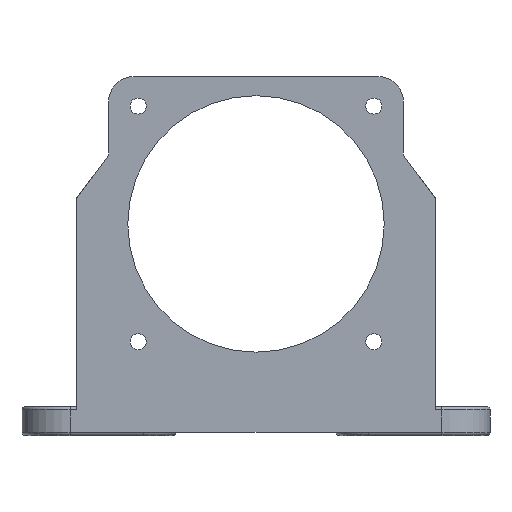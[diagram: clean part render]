
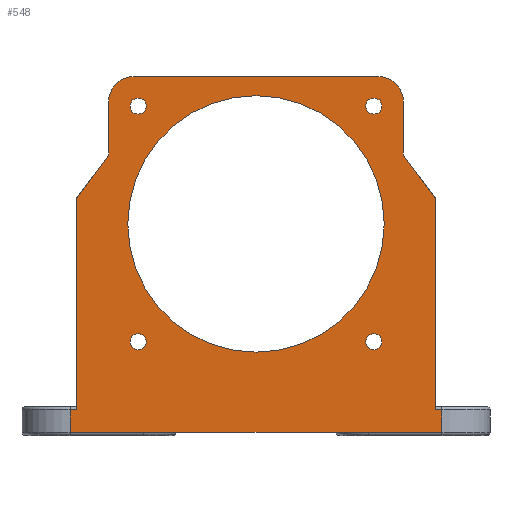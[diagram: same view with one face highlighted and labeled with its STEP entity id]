
A CAD part, front view. The second image highlights one B-rep face of the part: STEP entity #548.
In plain terms, the highlighted planar face has unit normal (0, -1, 0).
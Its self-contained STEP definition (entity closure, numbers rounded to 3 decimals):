
#73=CARTESIAN_POINT('',(38.0,0.,0.0));
#74=VERTEX_POINT('',#73);
#291=CARTESIAN_POINT('',(15.,0.,0.0));
#292=VERTEX_POINT('',#291);
#324=CARTESIAN_POINT('',(38.,0.,0.0));
#325=DIRECTION('',(-1.0,0.0,0.0));
#326=VECTOR('',#325,23.);
#327=LINE('',#324,#326);
#328=EDGE_CURVE('',#74,#292,#327,.T.);
#346=CARTESIAN_POINT('',(15.,0.,7.));
#347=VERTEX_POINT('',#346);
#348=CARTESIAN_POINT('',(15.,0.,0.0));
#349=DIRECTION('',(0.0,0.0,1.0));
#350=VECTOR('',#349,7.);
#351=LINE('',#348,#350);
#352=EDGE_CURVE('',#292,#347,#351,.T.);
#372=CARTESIAN_POINT('',(146.0,0.,0.0));
#373=DIRECTION('',(0.0,-1.0,0.0));
#374=DIRECTION('',(0.0,0.0,-1.0));
#375=AXIS2_PLACEMENT_3D('',#372,#373,#374);
#376=PLANE('',#375);
#377=ORIENTED_EDGE('',*,*,#328,.F.);
#378=CARTESIAN_POINT('',(108.0,0.,0.0));
#379=VERTEX_POINT('',#378);
#380=CARTESIAN_POINT('',(108.0,0.,0.0));
#381=DIRECTION('',(-1.0,0.0,0.0));
#382=VECTOR('',#381,70.0);
#383=LINE('',#380,#382);
#384=EDGE_CURVE('',#379,#74,#383,.T.);
#385=ORIENTED_EDGE('',*,*,#384,.F.);
#386=CARTESIAN_POINT('',(131.0,0.,0.0));
#387=VERTEX_POINT('',#386);
#388=CARTESIAN_POINT('',(131.,0.,0.0));
#389=DIRECTION('',(-1.0,0.0,0.0));
#390=VECTOR('',#389,23.0);
#391=LINE('',#388,#390);
#392=EDGE_CURVE('',#387,#379,#391,.T.);
#393=ORIENTED_EDGE('',*,*,#392,.F.);
#394=CARTESIAN_POINT('',(131.0,0.,7.));
#395=VERTEX_POINT('',#394);
#396=CARTESIAN_POINT('',(131.0,0.,7.));
#397=DIRECTION('',(0.0,0.0,-1.0));
#398=VECTOR('',#397,7.);
#399=LINE('',#396,#398);
#400=EDGE_CURVE('',#395,#387,#399,.T.);
#401=ORIENTED_EDGE('',*,*,#400,.F.);
#402=CARTESIAN_POINT('',(129.,0.,7.));
#403=VERTEX_POINT('',#402);
#404=CARTESIAN_POINT('',(129.,0.,7.));
#405=DIRECTION('',(1.0,0.0,0.0));
#406=VECTOR('',#405,2.0);
#407=LINE('',#404,#406);
#408=EDGE_CURVE('',#403,#395,#407,.T.);
#409=ORIENTED_EDGE('',*,*,#408,.F.);
#410=CARTESIAN_POINT('',(129.0,0.,73.));
#411=VERTEX_POINT('',#410);
#412=CARTESIAN_POINT('',(129.0,0.0,7.0));
#413=DIRECTION('',(0.0,0.0,1.0));
#414=VECTOR('',#413,66.);
#415=LINE('',#412,#414);
#416=EDGE_CURVE('',#403,#411,#415,.T.);
#417=ORIENTED_EDGE('',*,*,#416,.T.);
#418=CARTESIAN_POINT('',(119.,0.,86.5));
#419=VERTEX_POINT('',#418);
#420=CARTESIAN_POINT('',(129.0,0.,73.0));
#421=DIRECTION('',(-0.595,0.,0.804));
#422=VECTOR('',#421,16.8);
#423=LINE('',#420,#422);
#424=EDGE_CURVE('',#411,#419,#423,.T.);
#425=ORIENTED_EDGE('',*,*,#424,.T.);
#426=CARTESIAN_POINT('',(119.0,0.,103.0));
#427=VERTEX_POINT('',#426);
#428=CARTESIAN_POINT('',(119.,0.,86.5));
#429=DIRECTION('',(0.0,0.0,1.0));
#430=VECTOR('',#429,16.5);
#431=LINE('',#428,#430);
#432=EDGE_CURVE('',#419,#427,#431,.T.);
#433=ORIENTED_EDGE('',*,*,#432,.T.);
#434=CARTESIAN_POINT('',(111.0,0.,111.));
#435=VERTEX_POINT('',#434);
#436=CARTESIAN_POINT('',(111.0,0.,103.0));
#437=DIRECTION('',(0.,1.0,0.));
#438=DIRECTION('',(0.707,0.,0.707));
#439=AXIS2_PLACEMENT_3D('',#436,#437,#438);
#440=CIRCLE('',#439,8.);
#441=EDGE_CURVE('',#435,#427,#440,.T.);
#442=ORIENTED_EDGE('',*,*,#441,.F.);
#443=CARTESIAN_POINT('',(35.,0.,111.));
#444=VERTEX_POINT('',#443);
#445=CARTESIAN_POINT('',(111.0,0.,111.));
#446=DIRECTION('',(-1.0,0.0,0.0));
#447=VECTOR('',#446,76.0);
#448=LINE('',#445,#447);
#449=EDGE_CURVE('',#435,#444,#448,.T.);
#450=ORIENTED_EDGE('',*,*,#449,.T.);
#451=CARTESIAN_POINT('',(27.,0.,103.0));
#452=VERTEX_POINT('',#451);
#453=CARTESIAN_POINT('',(35.,0.,103.0));
#454=DIRECTION('',(0.,1.0,0.));
#455=DIRECTION('',(-0.707,0.,0.707));
#456=AXIS2_PLACEMENT_3D('',#453,#454,#455);
#457=CIRCLE('',#456,8.);
#458=EDGE_CURVE('',#452,#444,#457,.T.);
#459=ORIENTED_EDGE('',*,*,#458,.F.);
#460=CARTESIAN_POINT('',(27.,0.,86.5));
#461=VERTEX_POINT('',#460);
#462=CARTESIAN_POINT('',(27.,0.,103.0));
#463=DIRECTION('',(0.0,0.0,-1.0));
#464=VECTOR('',#463,16.5);
#465=LINE('',#462,#464);
#466=EDGE_CURVE('',#452,#461,#465,.T.);
#467=ORIENTED_EDGE('',*,*,#466,.T.);
#468=CARTESIAN_POINT('',(17.,0.,73.0));
#469=VERTEX_POINT('',#468);
#470=CARTESIAN_POINT('',(27.,0.,86.5));
#471=DIRECTION('',(-0.595,0.,-0.804));
#472=VECTOR('',#471,16.8);
#473=LINE('',#470,#472);
#474=EDGE_CURVE('',#461,#469,#473,.T.);
#475=ORIENTED_EDGE('',*,*,#474,.T.);
#476=CARTESIAN_POINT('',(17.,0.,7.));
#477=VERTEX_POINT('',#476);
#478=CARTESIAN_POINT('',(17.,0.,7.0));
#479=DIRECTION('',(0.0,0.0,1.0));
#480=VECTOR('',#479,66.);
#481=LINE('',#478,#480);
#482=EDGE_CURVE('',#477,#469,#481,.T.);
#483=ORIENTED_EDGE('',*,*,#482,.F.);
#484=CARTESIAN_POINT('',(15.0,0.,7.));
#485=DIRECTION('',(1.0,0.0,0.0));
#486=VECTOR('',#485,2.);
#487=LINE('',#484,#486);
#488=EDGE_CURVE('',#347,#477,#487,.T.);
#489=ORIENTED_EDGE('',*,*,#488,.F.);
#490=ORIENTED_EDGE('',*,*,#352,.F.);
#491=EDGE_LOOP('',(#377,#385,#393,#401,#409,#417,#425,#433,#442,#450,#459,#467,#475,#483,#489,#490));
#492=FACE_OUTER_BOUND('',#491,.T.);
#493=CARTESIAN_POINT('',(113.0,0.,65.));
#494=VERTEX_POINT('',#493);
#495=CARTESIAN_POINT('',(73.0,0.,65.));
#496=DIRECTION('',(0.0,1.0,0.0));
#497=DIRECTION('',(-1.0,0.0,0.0));
#498=AXIS2_PLACEMENT_3D('',#495,#496,#497);
#499=CIRCLE('',#498,40.0);
#500=EDGE_CURVE('',#494,#494,#499,.T.);
#501=ORIENTED_EDGE('',*,*,#500,.T.);
#502=EDGE_LOOP('',(#501));
#503=FACE_BOUND('',#502,.T.);
#504=CARTESIAN_POINT('',(112.27,0.,101.77));
#505=VERTEX_POINT('',#504);
#506=CARTESIAN_POINT('',(109.77,0.,101.77));
#507=DIRECTION('',(0.0,1.0,0.0));
#508=DIRECTION('',(-1.0,0.0,0.0));
#509=AXIS2_PLACEMENT_3D('',#506,#507,#508);
#510=CIRCLE('',#509,2.5);
#511=EDGE_CURVE('',#505,#505,#510,.T.);
#512=ORIENTED_EDGE('',*,*,#511,.T.);
#513=EDGE_LOOP('',(#512));
#514=FACE_BOUND('',#513,.T.);
#515=CARTESIAN_POINT('',(36.23,0.,104.27));
#516=VERTEX_POINT('',#515);
#517=CARTESIAN_POINT('',(36.23,0.,101.77));
#518=DIRECTION('',(0.0,1.0,0.0));
#519=DIRECTION('',(0.0,0.0,-1.0));
#520=AXIS2_PLACEMENT_3D('',#517,#518,#519);
#521=CIRCLE('',#520,2.5);
#522=EDGE_CURVE('',#516,#516,#521,.T.);
#523=ORIENTED_EDGE('',*,*,#522,.T.);
#524=EDGE_LOOP('',(#523));
#525=FACE_BOUND('',#524,.T.);
#526=CARTESIAN_POINT('',(33.73,0.,28.23));
#527=VERTEX_POINT('',#526);
#528=CARTESIAN_POINT('',(36.23,0.,28.23));
#529=DIRECTION('',(0.0,1.0,0.0));
#530=DIRECTION('',(1.0,0.0,0.0));
#531=AXIS2_PLACEMENT_3D('',#528,#529,#530);
#532=CIRCLE('',#531,2.5);
#533=EDGE_CURVE('',#527,#527,#532,.T.);
#534=ORIENTED_EDGE('',*,*,#533,.T.);
#535=EDGE_LOOP('',(#534));
#536=FACE_BOUND('',#535,.T.);
#537=CARTESIAN_POINT('',(109.77,0.,25.73));
#538=VERTEX_POINT('',#537);
#539=CARTESIAN_POINT('',(109.77,0.,28.23));
#540=DIRECTION('',(0.0,1.0,0.0));
#541=DIRECTION('',(0.0,0.0,1.0));
#542=AXIS2_PLACEMENT_3D('',#539,#540,#541);
#543=CIRCLE('',#542,2.5);
#544=EDGE_CURVE('',#538,#538,#543,.T.);
#545=ORIENTED_EDGE('',*,*,#544,.T.);
#546=EDGE_LOOP('',(#545));
#547=FACE_BOUND('',#546,.T.);
#548=ADVANCED_FACE('',(#492,#503,#514,#525,#536,#547),#376,.T.);
